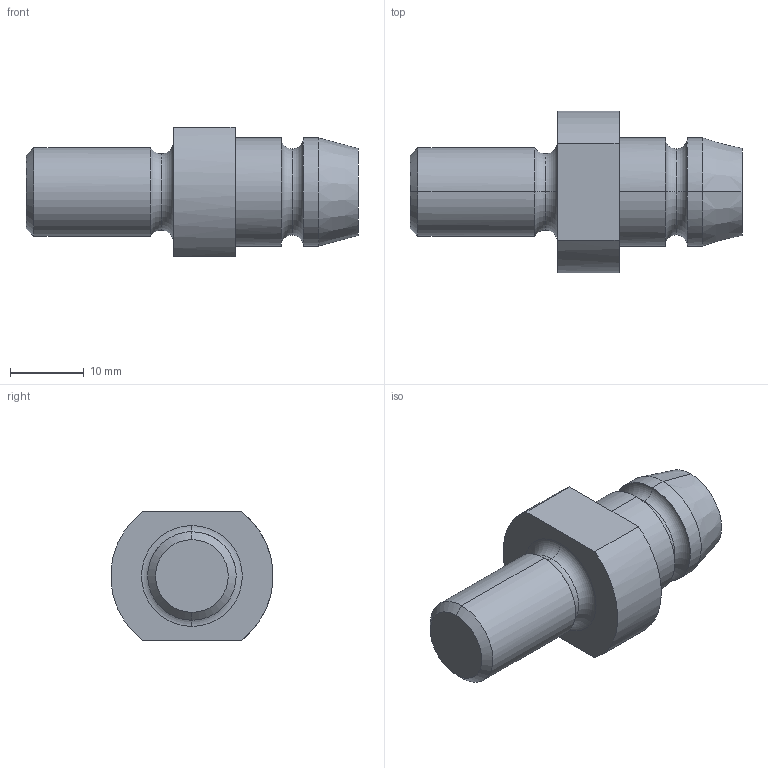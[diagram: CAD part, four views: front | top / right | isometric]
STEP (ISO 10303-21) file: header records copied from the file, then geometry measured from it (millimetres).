
FILE_DESCRIPTION(('CATIA V5 STEP Exchange'),'2;1');
FILE_NAME('C:\Users\Utente\Desktop\IO LAVORO\3D X SITO CF\X SITO\PLASTICA\AGS\AGS3301M12.stp','2021-02-21T19:09:48+00:00',('none'),('none'),'CATIA Version 5 Release 20 GA (IN-10)','CATIA V5 STEP AP203','none');
FILE_SCHEMA(('CONFIG_CONTROL_DESIGN'));
Length unit declared in the file: millimetre
Products named in the file (1): AGS3301M12
Bounding box: 45 x 21.95 x 17.6 mm (x, y, z)
Volume: 7524.2 mm3; surface area: 2716.9 mm2
Topology: 1 solids, 1 shells, 26 faces, 70 edges, 48 vertices
Faces by surface type: cylinder 8, torus 8, plane 6, cone 4
Entity records: 926 total; most frequent: CARTESIAN_POINT 245, ORIENTED_EDGE 140, DIRECTION 111, EDGE_CURVE 70, AXIS2_PLACEMENT_3D 68, VERTEX_POINT 48, CIRCLE 41, EDGE_LOOP 28
